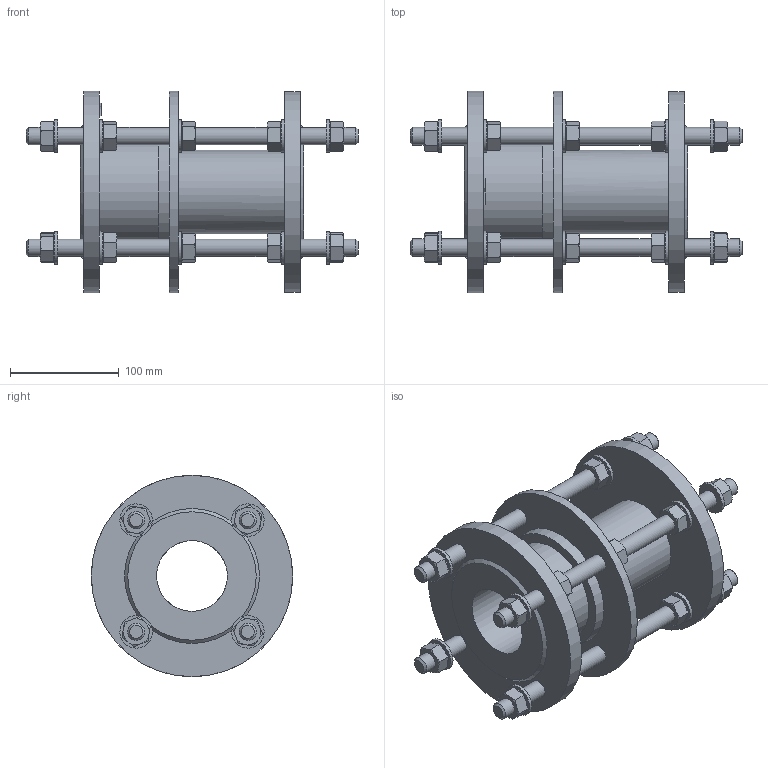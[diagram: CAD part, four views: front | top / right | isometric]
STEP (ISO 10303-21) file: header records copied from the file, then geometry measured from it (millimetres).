
FILE_DESCRIPTION (( 'STEP AP203' ), '1' );
FILE_NAME ('O_265_910_DN65_1XXXXX00_L=205_REV01.step', '2024-10-11T08:05:52', ( '' ), ( '' ), 'SwSTEP 2.0', 'SolidWorks 2022', '' );
FILE_SCHEMA (( 'CONFIG_CONTROL_DESIGN' ));
Length unit declared in the file: millimetre
Products named in the file (1): O_265_910_DN65_1XXXXX00_L=205_REV01
Bounding box: 305 x 185 x 185 mm (x, y, z)
Volume: 1646051.5 mm3; surface area: 309519.7 mm2
Topology: 1 solids, 1 shells, 547 faces, 1203 edges, 725 vertices
Faces by surface type: plane 344, cone 131, cylinder 72
Full cylindrical faces by diameter (mm): 16 x24, 24 x20, 30 x20, 65 x1, 77 x1, 95 x1, 185 x3
Entity records: 15102 total; most frequent: CARTESIAN_POINT 3761, DIRECTION 2319, ORIENTED_EDGE 2170, EDGE_CURVE 1085, AXIS2_PLACEMENT_3D 926, EDGE_LOOP 713, VERTEX_POINT 688, FACE_OUTER_BOUND 617
